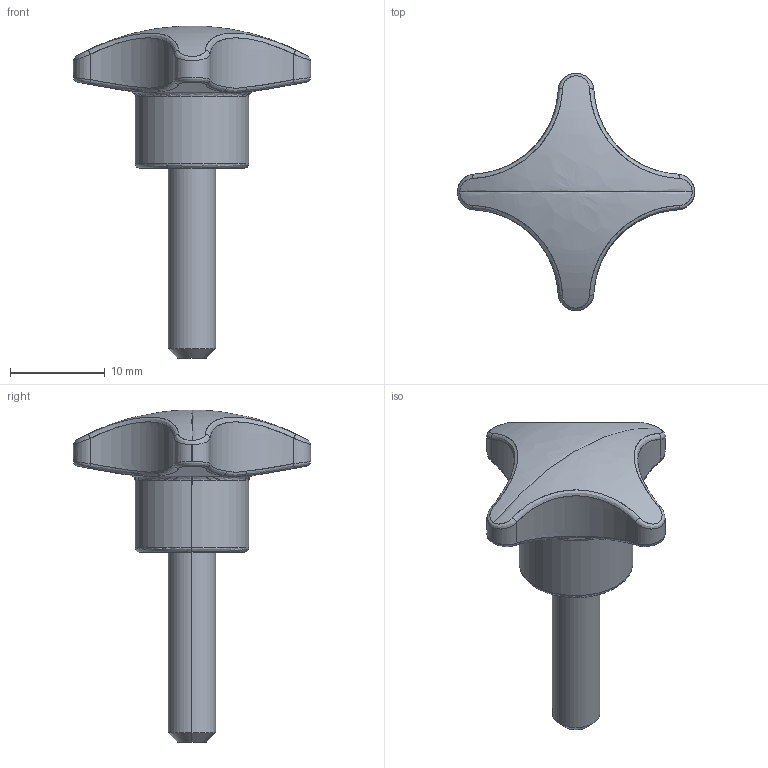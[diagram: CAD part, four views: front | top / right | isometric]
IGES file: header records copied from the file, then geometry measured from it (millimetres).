
Start section: SolidWorks IGES file using analytic representation for surfaces
Global section: file name: C:\Users\Marc\Documents\2 ENGINYERIA\Catalogo 3D\IGS STEP DXF\1121 25 501.IGS; native system: SolidWorks 2010; preprocessor: SolidWorks 2010; author: Marc; date: 101126.164026; units: millimetre
Bounding box: 25 x 25 x 35 mm (x, y, z)
Surface area: 1675.6 mm2 (no closed solid volume)
Topology: 0 solids, 0 shells, 63 faces, 825 edges, 824 vertices
Faces by surface type: bspline 37, revolution 26
